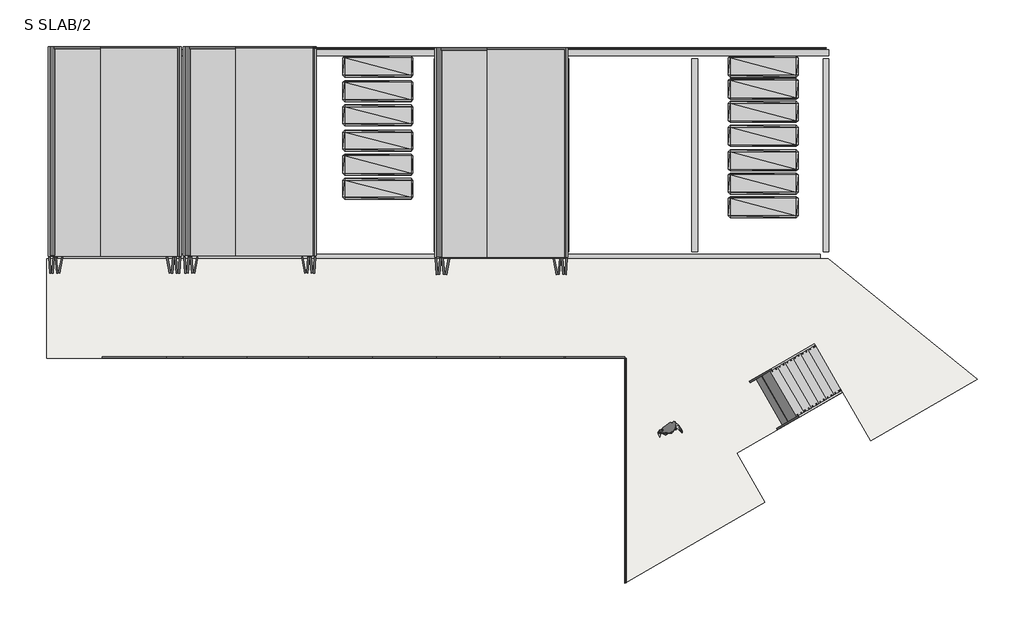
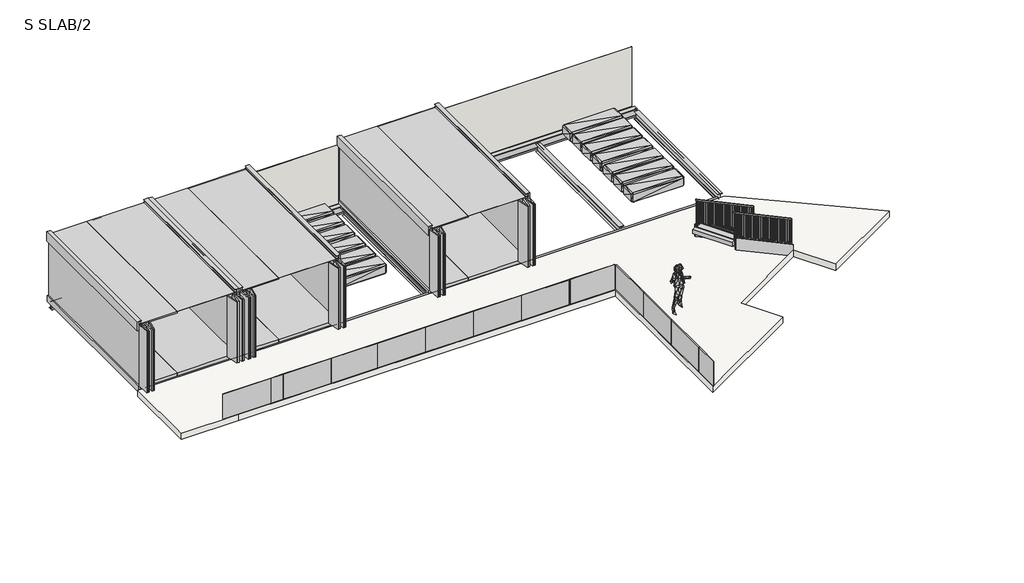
# One storey, incomplete: 14 geographic elements, 14 plates, 7 beams, 3 proxies, 2 members, 2 railings, 2 walls, 1 slab, 1 stair flight.
"""IFC4 building model written with IfcOpenShell, lengths in millimetres."""

from ifc_helpers import new_model, si_unit, frame, origin, place, context, project, spatial, polyline, outline, extrude, transform, mapped, element, save
from components import ub_universal_beams_ub305x165x40_a89eb652, ub_universal_beams_ub305x165x40_de42b84e, ub_universal_beams_ub305x165x40_bd95d4e6, metal_blocks12_metal_blocks12_015d9ee2, geographic_element_6e2c9092, geographic_element_5954a063, system_panel_glazed_a0877fd3, system_panel_glazed_3ddc4d3d, system_panel_glazed_1c1d8f5b, system_panel_glazed_525ed004, system_panel_glazed_75f56514, system_panel_glazed_8bb1380a, wood_steps_w_50mm_tread_10mm_nosing_13mm_riser_072bda0e

model = new_model("IFC4")

# Units and contexts
model_context = context("Model", 3, world=origin())
ifc_project = project(units=[si_unit("LENGTHUNIT", "METRE", prefix="MILLI")], contexts=[model_context])

# Site, building, storey
site = spatial("IfcSite", under=ifc_project)
building = spatial("IfcBuilding", under=site)
storey = spatial("IfcBuildingStorey", under=building, Name="S SLAB/2", Elevation=8800.0)

# Beams
placement = place(None, origin())
ub_universal_beams_ub305x165x40_shape = ub_universal_beams_ub305x165x40_a89eb652(model_context)
element("IfcBeam", 1, ObjectType="UB-Universal Beams : UB305x165x40", at=placement, inside=storey, context=model_context, shape_type="MappedRepresentation", body=[
    mapped(ub_universal_beams_ub305x165x40_shape, transform((3293.8958184, 35051.9809735, 8648.3), x_axis=(1.0, 0.0, 0.0), y_axis=(0.0, 1.0, 0.0), z_axis=(0.0, 0.0, 1.0))),
])
ub_universal_beams_ub305x165x40_2_shape = ub_universal_beams_ub305x165x40_de42b84e(model_context)
element("IfcBeam", 2, ObjectType="UB-Universal Beams : UB305x165x40", at=placement, inside=storey, context=model_context, shape_type="MappedRepresentation", body=[
    mapped(ub_universal_beams_ub305x165x40_2_shape, transform((-2187.5596017, 29190.0288254, 8648.3), x_axis=(1.0, 0.0, 0.0), y_axis=(0.0, 1.0, 0.0), z_axis=(0.0, 0.0, 1.0))),
])
ub_universal_beams_ub305x165x40_3_shape = ub_universal_beams_ub305x165x40_bd95d4e6(model_context)
element("IfcBeam", 3, ObjectType="UB-Universal Beams : UB305x165x40", at=placement, inside=storey, context=model_context, shape_type="MappedRepresentation", body=[
    mapped(ub_universal_beams_ub305x165x40_3_shape, transform((-5929.1066547, 32121.0048994, 8648.3), x_axis=(0.0, -1.0, 0.0), y_axis=(1.0, 0.0, 0.0), z_axis=(0.0, 0.0, 1.0))),
])
element("IfcBeam", 4, ObjectType="UB-Universal Beams : UB305x165x40", at=placement, inside=storey, context=model_context, shape_type="MappedRepresentation", body=[
    mapped(ub_universal_beams_ub305x165x40_3_shape, transform((-2245.9725728, 32121.0048994, 8648.3), x_axis=(0.0, -1.0, 0.0), y_axis=(1.0, 0.0, 0.0), z_axis=(0.0, 0.0, 1.0))),
])
element("IfcBeam", 5, ObjectType="UB-Universal Beams : UB305x165x40", at=placement, inside=storey, context=model_context, shape_type="MappedRepresentation", body=[
    mapped(ub_universal_beams_ub305x165x40_3_shape, transform((1448.4037035, 32121.0048994, 8648.3), x_axis=(0.0, -1.0, 0.0), y_axis=(1.0, 0.0, 0.0), z_axis=(0.0, 0.0, 1.0))),
])
element("IfcBeam", 6, ObjectType="UB-Universal Beams : UB305x165x40", at=placement, inside=storey, context=model_context, shape_type="MappedRepresentation", body=[
    mapped(ub_universal_beams_ub305x165x40_3_shape, transform((5139.3879332, 32121.0048994, 8648.3), x_axis=(0.0, -1.0, 0.0), y_axis=(1.0, 0.0, 0.0), z_axis=(0.0, 0.0, 1.0))),
])
element("IfcBeam", 7, ObjectType="UB-Universal Beams : UB305x165x40", at=placement, inside=storey, context=model_context, shape_type="MappedRepresentation", body=[
    mapped(ub_universal_beams_ub305x165x40_3_shape, transform((8901.9425222, 32121.0048994, 8648.3), x_axis=(0.0, -1.0, 0.0), y_axis=(1.0, 0.0, 0.0), z_axis=(0.0, 0.0, 1.0))),
])

# Proxies
metal_blocks12_metal_blocks12_shape = metal_blocks12_metal_blocks12_015d9ee2(model_context)
element("IfcBuildingElementProxy", 8, Name="metal blocks12 : metal blocks12", ObjectType="metal blocks12 : metal blocks12", at=placement, inside=storey, context=model_context, shape_type="MappedRepresentation", body=[
    mapped(metal_blocks12_metal_blocks12_shape, transform((-9631.6874983, 29227.0848226, 8800.0), x_axis=(0.0, 1.0, 0.0), y_axis=(-1.0, 0.0, 0.0), z_axis=(0.0, 0.0, 1.0))),
])
element("IfcBuildingElementProxy", 9, Name="metal blocks12 : metal blocks12", ObjectType="metal blocks12 : metal blocks12", at=placement, inside=storey, context=model_context, shape_type="MappedRepresentation", body=[
    mapped(metal_blocks12_metal_blocks12_shape, transform((1448.4037035, 29190.0288254, 8800.0), x_axis=(0.0, 1.0, 0.0), y_axis=(-1.0, 0.0, 0.0), z_axis=(0.0, 0.0, 1.0))),
])
element("IfcBuildingElementProxy", 10, Name="metal blocks12 : metal blocks12", ObjectType="metal blocks12 : metal blocks12", at=placement, inside=storey, context=model_context, shape_type="MappedRepresentation", body=[
    mapped(metal_blocks12_metal_blocks12_shape, transform((-5759.3874419, 29229.1388468, 8800.0), x_axis=(0.0, 1.0, 0.0), y_axis=(-1.0, 0.0, 0.0), z_axis=(0.0, 0.0, 1.0))),
])

# Geographic elements
geographic_element_shape = geographic_element_6e2c9092(model_context)
element("IfcGeographicElement", 11, ObjectType="Enscape AssetDefinition - Hedge 006 English Laurel : Enscape AssetDefinition - Hedge 006 English Laurel", at=placement, inside=storey, context=model_context, shape_type="MappedRepresentation", body=[
    mapped(geographic_element_shape, transform((-3938.9722238, 34651.9809735, 8800.0), x_axis=(1.0, 0.0, 0.0), y_axis=(0.0, 1.0, 0.0), z_axis=(0.0, 0.0, 1.0))),
])
element("IfcGeographicElement", 12, ObjectType="Enscape AssetDefinition - Hedge 006 English Laurel : Enscape AssetDefinition - Hedge 006 English Laurel", at=placement, inside=storey, context=model_context, shape_type="MappedRepresentation", body=[
    mapped(geographic_element_shape, transform((-3938.9722238, 33953.060429, 8800.0), x_axis=(1.0, 0.0, 0.0), y_axis=(0.0, 1.0, 0.0), z_axis=(0.0, 0.0, 1.0))),
])
element("IfcGeographicElement", 13, ObjectType="Enscape AssetDefinition - Hedge 006 English Laurel : Enscape AssetDefinition - Hedge 006 English Laurel", at=placement, inside=storey, context=model_context, shape_type="MappedRepresentation", body=[
    mapped(geographic_element_shape, transform((-3938.9722238, 33261.3724853, 8800.0), x_axis=(1.0, 0.0, 0.0), y_axis=(0.0, 1.0, 0.0), z_axis=(0.0, 0.0, 1.0))),
])
element("IfcGeographicElement", 14, ObjectType="Enscape AssetDefinition - Hedge 006 English Laurel : Enscape AssetDefinition - Hedge 006 English Laurel", at=placement, inside=storey, context=model_context, shape_type="MappedRepresentation", body=[
    mapped(geographic_element_shape, transform((7101.9425222, 34651.9809735, 8800.0), x_axis=(1.0, 0.0, 0.0), y_axis=(0.0, 1.0, 0.0), z_axis=(0.0, 0.0, 1.0))),
])
element("IfcGeographicElement", 15, ObjectType="Enscape AssetDefinition - Hedge 006 English Laurel : Enscape AssetDefinition - Hedge 006 English Laurel", at=placement, inside=storey, context=model_context, shape_type="MappedRepresentation", body=[
    mapped(geographic_element_shape, transform((7101.9425222, 33358.0622643, 8800.0), x_axis=(1.0, 0.0, 0.0), y_axis=(0.0, 1.0, 0.0), z_axis=(0.0, 0.0, 1.0))),
])
element("IfcGeographicElement", 16, ObjectType="Enscape AssetDefinition - Hedge 006 English Laurel : Enscape AssetDefinition - Hedge 006 English Laurel", at=placement, inside=storey, context=model_context, shape_type="MappedRepresentation", body=[
    mapped(geographic_element_shape, transform((7101.9425222, 34013.7054998, 8800.0), x_axis=(1.0, 0.0, 0.0), y_axis=(0.0, 1.0, 0.0), z_axis=(0.0, 0.0, 1.0))),
])
element("IfcGeographicElement", 17, ObjectType="Enscape AssetDefinition - Hedge 006 English Laurel : Enscape AssetDefinition - Hedge 006 English Laurel", at=placement, inside=storey, context=model_context, shape_type="MappedRepresentation", body=[
    mapped(geographic_element_shape, transform((7101.9425222, 32669.7346193, 8800.0), x_axis=(1.0, 0.0, 0.0), y_axis=(0.0, 1.0, 0.0), z_axis=(0.0, 0.0, 1.0))),
])
element("IfcGeographicElement", 18, ObjectType="Enscape AssetDefinition - Hedge 006 English Laurel : Enscape AssetDefinition - Hedge 006 English Laurel", at=placement, inside=storey, context=model_context, shape_type="MappedRepresentation", body=[
    mapped(geographic_element_shape, transform((-3938.9722238, 32530.6576234, 8800.0), x_axis=(1.0, 0.0, 0.0), y_axis=(0.0, 1.0, 0.0), z_axis=(0.0, 0.0, 1.0))),
])
element("IfcGeographicElement", 19, ObjectType="Enscape AssetDefinition - Hedge 006 English Laurel : Enscape AssetDefinition - Hedge 006 English Laurel", at=placement, inside=storey, context=model_context, shape_type="MappedRepresentation", body=[
    mapped(geographic_element_shape, transform((-3938.9722238, 31848.9337636, 8800.0), x_axis=(1.0, 0.0, 0.0), y_axis=(0.0, 1.0, 0.0), z_axis=(0.0, 0.0, 1.0))),
])
element("IfcGeographicElement", 20, ObjectType="Enscape AssetDefinition - Hedge 006 English Laurel : Enscape AssetDefinition - Hedge 006 English Laurel", at=placement, inside=storey, context=model_context, shape_type="MappedRepresentation", body=[
    mapped(geographic_element_shape, transform((-3938.9722238, 31154.7711822, 8800.0), x_axis=(1.0, 0.0, 0.0), y_axis=(0.0, 1.0, 0.0), z_axis=(0.0, 0.0, 1.0))),
])
element("IfcGeographicElement", 21, ObjectType="Enscape AssetDefinition - Hedge 006 English Laurel : Enscape AssetDefinition - Hedge 006 English Laurel", at=placement, inside=storey, context=model_context, shape_type="MappedRepresentation", body=[
    mapped(geographic_element_shape, transform((7101.9425222, 31969.7346193, 8800.0), x_axis=(1.0, 0.0, 0.0), y_axis=(0.0, 1.0, 0.0), z_axis=(0.0, 0.0, 1.0))),
])
element("IfcGeographicElement", 22, ObjectType="Enscape AssetDefinition - Hedge 006 English Laurel : Enscape AssetDefinition - Hedge 006 English Laurel", at=placement, inside=storey, context=model_context, shape_type="MappedRepresentation", body=[
    mapped(geographic_element_shape, transform((7101.9425222, 31299.6738672, 8800.0), x_axis=(1.0, 0.0, 0.0), y_axis=(0.0, 1.0, 0.0), z_axis=(0.0, 0.0, 1.0))),
])
element("IfcGeographicElement", 23, ObjectType="Enscape AssetDefinition - Hedge 006 English Laurel : Enscape AssetDefinition - Hedge 006 English Laurel", at=placement, inside=storey, context=model_context, shape_type="MappedRepresentation", body=[
    mapped(geographic_element_shape, transform((7101.9425222, 30627.3075812, 8800.0), x_axis=(1.0, 0.0, 0.0), y_axis=(0.0, 1.0, 0.0), z_axis=(0.0, 0.0, 1.0))),
])
geographic_element_2_shape = geographic_element_5954a063(model_context)
element("IfcGeographicElement", 24, ObjectType="Enscape AssetDefinition - Aimee 002 Standing : Enscape AssetDefinition - Aimee 002 Standing", at=placement, inside=storey, context=model_context, shape_type="MappedRepresentation", body=[
    mapped(geographic_element_2_shape, transform((4332.0366131, 24244.7647853, 8800.0), x_axis=(1.0, 0.0, 0.0), y_axis=(0.0, 1.0, 0.0), z_axis=(0.0, 0.0, 1.0))),
])

# Members
element("IfcMember", 25, ObjectType="Stringer-50mm_Width", at=placement, inside=storey, context=model_context, shape_type="SweptSolid", body=[
    extrude(outline(polyline([(-130.9293633, -193.9694271), (0.0, 0.0), (4524.348192, 0.0), (4254.348192, -400.0), (174.3011152, -400.0), (-130.9293633, -193.9694271)])), frame((9365.4091064, 25329.9735646, 9034.0227271), z_axis=(-0.4999999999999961, 0.8660254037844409, 0.0), x_axis=(-0.7178040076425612, -0.4144243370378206, 0.5594728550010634)), (0.0, 0.0, 1.0), 50.0),
])
element("IfcMember", 26, ObjectType="Stringer-50mm_Width", at=placement, inside=storey, context=model_context, shape_type="SweptSolid", body=[
    extrude(outline(polyline([(-130.9293633, -193.9694271), (0.0, 0.0), (4524.348192, 0.0), (4254.348192, -400.0), (174.3011152, -400.0), (-130.9293633, -193.9694271)])), frame((8590.4091064, 26672.3129404, 9034.0227271), z_axis=(-0.4999999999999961, 0.866025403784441, 0.0), x_axis=(-0.7178040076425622, -0.4144243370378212, 0.5594728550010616)), (0.0, 0.0, 1.0), 50.0),
])

# Plates
system_panel_glazed_shape = system_panel_glazed_a0877fd3(model_context)
element("IfcPlate", 27, ObjectType="System Panel : Glazed", at=placement, inside=storey, context=model_context, shape_type="MappedRepresentation", body=[
    mapped(system_panel_glazed_shape, transform((-10915.6675531, 26292.1681881, 8800.0), x_axis=(1.0, 0.0, 0.0), y_axis=(0.0, 1.0, 0.0), z_axis=(0.0, 0.0, 1.0))),
])
element("IfcPlate", 28, ObjectType="System Panel : Glazed", at=placement, inside=storey, context=model_context, shape_type="MappedRepresentation", body=[
    mapped(system_panel_glazed_shape, transform((-8616.6874982, 26292.1681881, 8800.0), x_axis=(1.0, 0.0, 0.0), y_axis=(0.0, 1.0, 0.0), z_axis=(0.0, 0.0, 1.0))),
])
element("IfcPlate", 29, ObjectType="System Panel : Glazed", at=placement, inside=storey, context=model_context, shape_type="MappedRepresentation", body=[
    mapped(system_panel_glazed_shape, transform((-5016.6874982, 26292.1681881, 8800.0), x_axis=(1.0, 0.0, 0.0), y_axis=(0.0, 1.0, 0.0), z_axis=(0.0, 0.0, 1.0))),
])
element("IfcPlate", 30, ObjectType="System Panel : Glazed", at=placement, inside=storey, context=model_context, shape_type="MappedRepresentation", body=[
    mapped(system_panel_glazed_shape, transform((-3186.6874982, 26292.1681881, 8800.0), x_axis=(1.0, 0.0, 0.0), y_axis=(0.0, 1.0, 0.0), z_axis=(0.0, 0.0, 1.0))),
])
element("IfcPlate", 31, ObjectType="System Panel : Glazed", at=placement, inside=storey, context=model_context, shape_type="MappedRepresentation", body=[
    mapped(system_panel_glazed_shape, transform((-1356.6874982, 26292.1681881, 8800.0), x_axis=(1.0, 0.0, 0.0), y_axis=(0.0, 1.0, 0.0), z_axis=(0.0, 0.0, 1.0))),
])
element("IfcPlate", 32, ObjectType="System Panel : Glazed", at=placement, inside=storey, context=model_context, shape_type="MappedRepresentation", body=[
    mapped(system_panel_glazed_shape, transform((473.312502, 26292.1681881, 8800.0), x_axis=(1.0, 0.0, 0.0), y_axis=(0.0, 1.0, 0.0), z_axis=(0.0, 0.0, 1.0))),
])
element("IfcPlate", 33, ObjectType="System Panel : Glazed", at=placement, inside=storey, context=model_context, shape_type="MappedRepresentation", body=[
    mapped(system_panel_glazed_shape, transform((3132.0366131, 25377.1681879, 8800.0), x_axis=(0.0, -1.0, 0.0), y_axis=(1.0, 0.0, 0.0), z_axis=(0.0, 0.0, 1.0))),
])
element("IfcPlate", 34, ObjectType="System Panel : Glazed", at=placement, inside=storey, context=model_context, shape_type="MappedRepresentation", body=[
    mapped(system_panel_glazed_shape, transform((3132.0366131, 23547.1681878, 8800.0), x_axis=(0.0, -1.0, 0.0), y_axis=(1.0, 0.0, 0.0), z_axis=(0.0, 0.0, 1.0))),
])
element("IfcPlate", 35, ObjectType="System Panel : Glazed", at=placement, inside=storey, context=model_context, shape_type="MappedRepresentation", body=[
    mapped(system_panel_glazed_shape, transform((3132.0366131, 21717.1681878, 8800.0), x_axis=(0.0, -1.0, 0.0), y_axis=(1.0, 0.0, 0.0), z_axis=(0.0, 0.0, 1.0))),
])
system_panel_glazed_2_shape = system_panel_glazed_3ddc4d3d(model_context)
element("IfcPlate", 36, ObjectType="System Panel : Glazed", at=placement, inside=storey, context=model_context, shape_type="MappedRepresentation", body=[
    mapped(system_panel_glazed_2_shape, transform((-6816.6874982, 26292.1681881, 8800.0), x_axis=(1.0, 0.0, 0.0), y_axis=(0.0, 1.0, 0.0), z_axis=(0.0, 0.0, 1.0))),
])
system_panel_glazed_3_shape = system_panel_glazed_1c1d8f5b(model_context)
element("IfcPlate", 37, ObjectType="System Panel : Glazed", at=placement, inside=storey, context=model_context, shape_type="MappedRepresentation", body=[
    mapped(system_panel_glazed_3_shape, transform((1408.3125018, 26292.1681881, 8800.0), x_axis=(1.0, 0.0, 0.0), y_axis=(0.0, 1.0, 0.0), z_axis=(0.0, 0.0, 1.0))),
])
system_panel_glazed_4_shape = system_panel_glazed_525ed004(model_context)
element("IfcPlate", 38, ObjectType="System Panel : Glazed", at=placement, inside=storey, context=model_context, shape_type="MappedRepresentation", body=[
    mapped(system_panel_glazed_4_shape, transform((2280.1745574, 26292.1681881, 8800.0), x_axis=(1.0, 0.0, 0.0), y_axis=(0.0, 1.0, 0.0), z_axis=(0.0, 0.0, 1.0))),
])
system_panel_glazed_5_shape = system_panel_glazed_75f56514(model_context)
element("IfcPlate", 39, ObjectType="System Panel : Glazed", at=placement, inside=storey, context=model_context, shape_type="MappedRepresentation", body=[
    mapped(system_panel_glazed_5_shape, transform((3132.0366131, 20331.6230881, 8800.0), x_axis=(0.0, -1.0, 0.0), y_axis=(1.0, 0.0, 0.0), z_axis=(0.0, 0.0, 1.0))),
])
system_panel_glazed_6_shape = system_panel_glazed_8bb1380a(model_context)
element("IfcPlate", 40, ObjectType="System Panel : Glazed", at=placement, inside=storey, context=model_context, shape_type="MappedRepresentation", body=[
    mapped(system_panel_glazed_6_shape, transform((-9766.1775256, 26292.1681881, 8800.0), x_axis=(1.0, 0.0, 0.0), y_axis=(0.0, 1.0, 0.0), z_axis=(0.0, 0.0, 1.0))),
])

# Railings
element("IfcRailing", 41, ObjectType="1100mm", at=placement, inside=storey, context=model_context, shape_type="SweptSolid", body=[
    extrude(outline(polyline([(-33.75, -50.0), (0.0, 0.0), (4524.348192, 0.0), (4490.598192, -50.0), (-33.75, -50.0)])), frame((8615.6091064, 26628.6652601, 10068.75), z_axis=(-0.499999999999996, 0.8660254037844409, 0.0), x_axis=(-0.7178040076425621, -0.414424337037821, 0.5594728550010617)), (0.0, 0.0, 1.0), 50.0),
    extrude(outline(polyline([(1266.2378574, -25.0), (108.4375, -25.0), (91.5625, 0.0), (1266.2378574, 0.0), (1266.2378574, -25.0)])), frame((5405.0651124, 24789.4905776, 12597.4878574), z_axis=(-0.49999999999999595, 0.8660254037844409, 0.0), x_axis=(0.0, 0.0, -1.0)), (0.0, 0.0, 1.0), 25.0),
    extrude(outline(polyline([(1181.8628574, -25.0), (108.4375, -25.0), (91.5625, 0.0), (1181.8628574, 0.0), (1181.8628574, -25.0)])), frame((5513.3182878, 24851.9905776, 12513.1128574), z_axis=(-0.49999999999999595, 0.8660254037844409, 0.0), x_axis=(0.0, 0.0, -1.0)), (0.0, 0.0, 1.0), 25.0),
    extrude(outline(polyline([(1266.2378574, -25.0), (108.4375, -25.0), (91.5625, 0.0), (1266.2378574, 0.0), (1266.2378574, -25.0)])), frame((5621.5714633, 24914.4905776, 12428.7378574), z_axis=(-0.49999999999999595, 0.8660254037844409, 0.0), x_axis=(0.0, 0.0, -1.0)), (0.0, 0.0, 1.0), 25.0),
    extrude(outline(polyline([(1181.8628574, -25.0), (108.4375, -25.0), (91.5625, 0.0), (1181.8628574, 0.0), (1181.8628574, -25.0)])), frame((5729.8246388, 24976.9905776, 12344.3628574), z_axis=(-0.49999999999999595, 0.8660254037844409, 0.0), x_axis=(0.0, 0.0, -1.0)), (0.0, 0.0, 1.0), 25.0),
    extrude(outline(polyline([(1266.2378574, -24.9999999), (108.4375, -24.9999999), (91.5625, 0.0), (1266.2378574, 0.0), (1266.2378574, -24.9999999)])), frame((5838.0778143, 25039.4905776, 12259.9878574), z_axis=(-0.49999999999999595, 0.8660254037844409, 0.0), x_axis=(0.0, 0.0, -1.0)), (0.0, 0.0, 1.0), 25.0),
    extrude(outline(polyline([(1181.8628574, -25.0), (108.4375, -25.0), (91.5625, 0.0), (1181.8628574, 0.0), (1181.8628574, -25.0)])), frame((5946.3309897, 25101.9905776, 12175.6128574), z_axis=(-0.49999999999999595, 0.8660254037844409, 0.0), x_axis=(0.0, 0.0, -1.0)), (0.0, 0.0, 1.0), 25.0),
    extrude(outline(polyline([(1266.2378574, -25.0), (108.4375, -25.0), (91.5625, 0.0), (1266.2378574, 0.0), (1266.2378574, -25.0)])), frame((6054.5841652, 25164.4905776, 12091.2378574), z_axis=(-0.49999999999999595, 0.8660254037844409, 0.0), x_axis=(0.0, 0.0, -1.0)), (0.0, 0.0, 1.0), 25.0),
    extrude(outline(polyline([(1181.8628574, -25.0), (108.4375, -25.0), (91.5625, 0.0), (1181.8628574, 0.0), (1181.8628574, -25.0)])), frame((6162.8373407, 25226.9905776, 12006.8628574), z_axis=(-0.49999999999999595, 0.8660254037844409, 0.0), x_axis=(0.0, 0.0, -1.0)), (0.0, 0.0, 1.0), 25.0),
    extrude(outline(polyline([(1266.2378574, -25.0), (108.4375, -25.0), (91.5625, 0.0), (1266.2378574, 0.0), (1266.2378574, -25.0)])), frame((6271.0905161, 25289.4905776, 11922.4878574), z_axis=(-0.49999999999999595, 0.8660254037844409, 0.0), x_axis=(0.0, 0.0, -1.0)), (0.0, 0.0, 1.0), 25.0),
    extrude(outline(polyline([(1181.8628574, -25.0), (108.4375, -25.0), (91.5625, 0.0), (1181.8628574, 0.0), (1181.8628574, -25.0)])), frame((6379.3436916, 25351.9905776, 11838.1128574), z_axis=(-0.49999999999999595, 0.8660254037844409, 0.0), x_axis=(0.0, 0.0, -1.0)), (0.0, 0.0, 1.0), 25.0),
    extrude(outline(polyline([(1266.2378574, -25.0), (108.4375, -25.0), (91.5625, 0.0), (1266.2378574, 0.0), (1266.2378574, -25.0)])), frame((6487.5968671, 25414.4905776, 11753.7378574), z_axis=(-0.49999999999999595, 0.8660254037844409, 0.0), x_axis=(0.0, 0.0, -1.0)), (0.0, 0.0, 1.0), 25.0),
    extrude(outline(polyline([(1181.8628574, -25.0), (108.4375, -25.0), (91.5625, 0.0), (1181.8628574, 0.0), (1181.8628574, -25.0)])), frame((6595.8500426, 25476.9905776, 11669.3628574), z_axis=(-0.49999999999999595, 0.8660254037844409, 0.0), x_axis=(0.0, 0.0, -1.0)), (0.0, 0.0, 1.0), 25.0),
    extrude(outline(polyline([(1266.2378574, -25.0), (108.4375, -25.0), (91.5625, 0.0), (1266.2378574, 0.0), (1266.2378574, -25.0)])), frame((6704.103218, 25539.4905776, 11584.9878574), z_axis=(-0.49999999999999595, 0.8660254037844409, 0.0), x_axis=(0.0, 0.0, -1.0)), (0.0, 0.0, 1.0), 25.0),
    extrude(outline(polyline([(1181.8628574, -25.0), (108.4375, -25.0), (91.5625, 0.0), (1181.8628574, 0.0), (1181.8628574, -25.0)])), frame((6812.3563935, 25601.9905776, 11500.6128574), z_axis=(-0.49999999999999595, 0.8660254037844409, 0.0), x_axis=(0.0, 0.0, -1.0)), (0.0, 0.0, 1.0), 25.0),
    extrude(outline(polyline([(1266.2378574, -25.0), (108.4375, -25.0), (91.5625, 0.0), (1266.2378574, 0.0), (1266.2378574, -25.0)])), frame((6920.609569, 25664.4905776, 11416.2378574), z_axis=(-0.49999999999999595, 0.8660254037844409, 0.0), x_axis=(0.0, 0.0, -1.0)), (0.0, 0.0, 1.0), 25.0),
    extrude(outline(polyline([(1181.8628574, -25.0), (108.4375, -25.0), (91.5625, 0.0), (1181.8628574, 0.0), (1181.8628574, -25.0)])), frame((7028.8627445, 25726.9905776, 11331.8628574), z_axis=(-0.49999999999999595, 0.8660254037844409, 0.0), x_axis=(0.0, 0.0, -1.0)), (0.0, 0.0, 1.0), 25.0),
    extrude(outline(polyline([(1266.2378574, -25.0), (108.4375, -25.0), (91.5625, 0.0), (1266.2378574, 0.0), (1266.2378574, -25.0)])), frame((7137.1159199, 25789.4905776, 11247.4878574), z_axis=(-0.49999999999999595, 0.8660254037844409, 0.0), x_axis=(0.0, 0.0, -1.0)), (0.0, 0.0, 1.0), 25.0),
    extrude(outline(polyline([(1181.8628574, -25.0), (108.4375, -25.0), (91.5625, 0.0), (1181.8628574, 0.0), (1181.8628574, -25.0)])), frame((7245.3690954, 25851.9905776, 11163.1128574), z_axis=(-0.49999999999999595, 0.8660254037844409, 0.0), x_axis=(0.0, 0.0, -1.0)), (0.0, 0.0, 1.0), 25.0),
    extrude(outline(polyline([(1266.2378574, -25.0), (108.4375, -25.0), (91.5625, 0.0), (1266.2378574, 0.0), (1266.2378574, -25.0)])), frame((7353.6222709, 25914.4905776, 11078.7378574), z_axis=(-0.49999999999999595, 0.8660254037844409, 0.0), x_axis=(0.0, 0.0, -1.0)), (0.0, 0.0, 1.0), 25.0),
    extrude(outline(polyline([(1181.8628574, -24.9999999), (108.4375, -24.9999999), (91.5625, 0.0), (1181.8628574, 0.0), (1181.8628574, -24.9999999)])), frame((7461.8754464, 25976.9905776, 10994.3628574), z_axis=(-0.49999999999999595, 0.8660254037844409, 0.0), x_axis=(0.0, 0.0, -1.0)), (0.0, 0.0, 1.0), 25.0),
    extrude(outline(polyline([(1266.2378574, -25.0), (108.4375, -25.0), (91.5625, 0.0), (1266.2378574, 0.0), (1266.2378574, -25.0)])), frame((7570.1286218, 26039.4905776, 10909.9878574), z_axis=(-0.49999999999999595, 0.8660254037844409, 0.0), x_axis=(0.0, 0.0, -1.0)), (0.0, 0.0, 1.0), 25.0),
    extrude(outline(polyline([(1181.8628574, -25.0), (108.4375, -25.0), (91.5625, 0.0), (1181.8628574, 0.0), (1181.8628574, -25.0)])), frame((7678.3817973, 26101.9905776, 10825.6128574), z_axis=(-0.49999999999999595, 0.8660254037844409, 0.0), x_axis=(0.0, 0.0, -1.0)), (0.0, 0.0, 1.0), 25.0),
    extrude(outline(polyline([(1266.2378574, -25.0), (108.4375, -25.0), (91.5625, 0.0), (1266.2378574, 0.0), (1266.2378574, -25.0)])), frame((7786.6349728, 26164.4905776, 10741.2378574), z_axis=(-0.49999999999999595, 0.8660254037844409, 0.0), x_axis=(0.0, 0.0, -1.0)), (0.0, 0.0, 1.0), 25.0),
    extrude(outline(polyline([(1181.8628574, -25.0), (108.4375, -25.0), (91.5625, 0.0), (1181.8628574, 0.0), (1181.8628574, -25.0)])), frame((7894.8881482, 26226.9905776, 10656.8628574), z_axis=(-0.49999999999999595, 0.8660254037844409, 0.0), x_axis=(0.0, 0.0, -1.0)), (0.0, 0.0, 1.0), 25.0),
    extrude(outline(polyline([(1266.2378574, -25.0), (108.4375, -25.0), (91.5625, 0.0), (1266.2378574, 0.0), (1266.2378574, -25.0)])), frame((8003.1413237, 26289.4905776, 10572.4878574), z_axis=(-0.49999999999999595, 0.8660254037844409, 0.0), x_axis=(0.0, 0.0, -1.0)), (0.0, 0.0, 1.0), 25.0),
    extrude(outline(polyline([(1181.8628574, -25.0), (108.4375, -25.0), (91.5625, 0.0), (1181.8628574, 0.0), (1181.8628574, -25.0)])), frame((8111.3944992, 26351.9905776, 10488.1128574), z_axis=(-0.49999999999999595, 0.8660254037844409, 0.0), x_axis=(0.0, 0.0, -1.0)), (0.0, 0.0, 1.0), 25.0),
    extrude(outline(polyline([(1266.2378574, -25.0), (108.4375, -25.0), (91.5625, 0.0), (1266.2378574, 0.0), (1266.2378574, -25.0)])), frame((8219.6476747, 26414.4905776, 10403.7378574), z_axis=(-0.49999999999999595, 0.8660254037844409, 0.0), x_axis=(0.0, 0.0, -1.0)), (0.0, 0.0, 1.0), 25.0),
    extrude(outline(polyline([(1181.8628574, -25.0), (108.4375, -25.0), (91.5625, 0.0), (1181.8628574, 0.0), (1181.8628574, -25.0)])), frame((8327.9008501, 26476.9905776, 10319.3628574), z_axis=(-0.49999999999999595, 0.8660254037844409, 0.0), x_axis=(0.0, 0.0, -1.0)), (0.0, 0.0, 1.0), 25.0),
    extrude(outline(polyline([(1266.2378574, -25.0), (108.4375, -25.0), (91.5625, 0.0), (1266.2378574, 0.0), (1266.2378574, -25.0)])), frame((8436.1540256, 26539.4905776, 10234.9878574), z_axis=(-0.49999999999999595, 0.8660254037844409, 0.0), x_axis=(0.0, 0.0, -1.0)), (0.0, 0.0, 1.0), 25.0),
    extrude(outline(polyline([(1181.8628574, -25.0), (108.4375, -25.0), (91.5625, 0.0), (1181.8628574, 0.0), (1181.8628574, -25.0)])), frame((8544.4072011, 26601.9905776, 10150.6128574), z_axis=(-0.49999999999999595, 0.8660254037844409, 0.0), x_axis=(0.0, 0.0, -1.0)), (0.0, 0.0, 1.0), 25.0),
    extrude(outline(polyline([(1299.9878574, -25.0), (108.4375, -25.0), (91.5625, 0.0), (1299.9878574, 0.0), (1299.9878574, -25.0)])), frame((5361.7638422, 24764.4905776, 12631.2378574), z_axis=(-0.49999999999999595, 0.8660254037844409, 0.0), x_axis=(0.0, 0.0, -1.0)), (0.0, 0.0, 1.0), 25.0),
    extrude(outline(polyline([(1148.1128574, -25.0), (108.4375, -25.0), (91.5625, 0.0), (1148.1128574, 0.0), (1148.1128574, -25.0)])), frame((8587.7084713, 26626.9905776, 10116.8628574), z_axis=(-0.49999999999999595, 0.8660254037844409, 0.0), x_axis=(0.0, 0.0, -1.0)), (0.0, 0.0, 1.0), 25.0),
])
element("IfcRailing", 42, ObjectType="1100mm", at=placement, inside=storey, context=model_context, shape_type="SweptSolid", body=[
    extrude(outline(polyline([(-33.75, -50.0), (0.0, 0.0), (4524.348192, 0.0), (4490.598192, -50.0), (-33.75, -50.0)])), frame((9340.2091064, 25373.6212449, 10068.75), z_axis=(-0.4999999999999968, 0.8660254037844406, 0.0), x_axis=(-0.717804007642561, -0.4144243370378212, 0.5594728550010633)), (0.0, 0.0, 1.0), 50.0),
    extrude(outline(polyline([(108.4375, 0.0), (91.5625, 25.0), (1266.2378574, 25.0), (1266.2378574, 0.0), (108.4375, 0.0)])), frame((6151.3157475, 23546.9465625, 12597.4878574), z_axis=(-0.4999999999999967, 0.8660254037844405, 0.0), x_axis=(0.0, 0.0, -1.0)), (0.0, 0.0, 1.0), 25.0),
    extrude(outline(polyline([(108.4375, 0.0), (91.5625, 25.0), (1181.8628574, 25.0), (1181.8628574, 0.0), (108.4375, 0.0)])), frame((6259.5689229, 23609.4465625, 12513.1128574), z_axis=(-0.4999999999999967, 0.8660254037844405, 0.0), x_axis=(0.0, 0.0, -1.0)), (0.0, 0.0, 1.0), 25.0),
    extrude(outline(polyline([(108.4375, 0.0), (91.5625, 25.0), (1266.2378574, 25.0), (1266.2378574, 0.0), (108.4375, 0.0)])), frame((6367.8220984, 23671.9465625, 12428.7378574), z_axis=(-0.4999999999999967, 0.8660254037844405, 0.0), x_axis=(0.0, 0.0, -1.0)), (0.0, 0.0, 1.0), 25.0),
    extrude(outline(polyline([(108.4375, 0.0), (91.5625, 25.0), (1181.8628574, 25.0), (1181.8628574, 0.0), (108.4375, 0.0)])), frame((6476.0752739, 23734.4465625, 12344.3628574), z_axis=(-0.4999999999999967, 0.8660254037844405, 0.0), x_axis=(0.0, 0.0, -1.0)), (0.0, 0.0, 1.0), 25.0),
    extrude(outline(polyline([(108.4375, 0.0), (91.5625, 24.9999999), (1266.2378574, 24.9999999), (1266.2378574, 0.0), (108.4375, 0.0)])), frame((6584.3284493, 23796.9465625, 12259.9878574), z_axis=(-0.4999999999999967, 0.8660254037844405, 0.0), x_axis=(0.0, 0.0, -1.0)), (0.0, 0.0, 1.0), 25.0),
    extrude(outline(polyline([(108.4375, 0.0), (91.5625, 25.0), (1181.8628574, 25.0), (1181.8628574, 0.0), (108.4375, 0.0)])), frame((6692.5816248, 23859.4465625, 12175.6128574), z_axis=(-0.4999999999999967, 0.8660254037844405, 0.0), x_axis=(0.0, 0.0, -1.0)), (0.0, 0.0, 1.0), 25.0),
    extrude(outline(polyline([(108.4375, 0.0), (91.5625, 25.0), (1266.2378574, 25.0), (1266.2378574, 0.0), (108.4375, 0.0)])), frame((6800.8348003, 23921.9465625, 12091.2378574), z_axis=(-0.4999999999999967, 0.8660254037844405, 0.0), x_axis=(0.0, 0.0, -1.0)), (0.0, 0.0, 1.0), 25.0),
    extrude(outline(polyline([(108.4375, 0.0), (91.5625, 25.0), (1181.8628574, 25.0), (1181.8628574, 0.0), (108.4375, 0.0)])), frame((6909.0879758, 23984.4465625, 12006.8628574), z_axis=(-0.4999999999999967, 0.8660254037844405, 0.0), x_axis=(0.0, 0.0, -1.0)), (0.0, 0.0, 1.0), 25.0),
    extrude(outline(polyline([(108.4375, 0.0), (91.5625, 25.0), (1266.2378574, 25.0), (1266.2378574, 0.0), (108.4375, 0.0)])), frame((7017.3411512, 24046.9465625, 11922.4878574), z_axis=(-0.4999999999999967, 0.8660254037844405, 0.0), x_axis=(0.0, 0.0, -1.0)), (0.0, 0.0, 1.0), 25.0),
    extrude(outline(polyline([(108.4375, 0.0), (91.5625, 25.0), (1181.8628574, 25.0), (1181.8628574, 0.0), (108.4375, 0.0)])), frame((7125.5943267, 24109.4465625, 11838.1128574), z_axis=(-0.4999999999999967, 0.8660254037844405, 0.0), x_axis=(0.0, 0.0, -1.0)), (0.0, 0.0, 1.0), 25.0),
    extrude(outline(polyline([(108.4375, 0.0), (91.5625, 25.0), (1266.2378574, 25.0), (1266.2378574, 0.0), (108.4375, 0.0)])), frame((7233.8475022, 24171.9465625, 11753.7378574), z_axis=(-0.4999999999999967, 0.8660254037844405, 0.0), x_axis=(0.0, 0.0, -1.0)), (0.0, 0.0, 1.0), 25.0),
    extrude(outline(polyline([(108.4375, 0.0), (91.5625, 25.0), (1181.8628574, 25.0), (1181.8628574, 0.0), (108.4375, 0.0)])), frame((7342.1006777, 24234.4465625, 11669.3628574), z_axis=(-0.4999999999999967, 0.8660254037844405, 0.0), x_axis=(0.0, 0.0, -1.0)), (0.0, 0.0, 1.0), 25.0),
    extrude(outline(polyline([(108.4375, 0.0), (91.5625, 25.0), (1266.2378574, 25.0), (1266.2378574, 0.0), (108.4375, 0.0)])), frame((7450.3538531, 24296.9465625, 11584.9878574), z_axis=(-0.4999999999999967, 0.8660254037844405, 0.0), x_axis=(0.0, 0.0, -1.0)), (0.0, 0.0, 1.0), 25.0),
    extrude(outline(polyline([(108.4375, 0.0), (91.5625, 25.0), (1181.8628574, 25.0), (1181.8628574, 0.0), (108.4375, 0.0)])), frame((7558.6070286, 24359.4465625, 11500.6128574), z_axis=(-0.4999999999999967, 0.8660254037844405, 0.0), x_axis=(0.0, 0.0, -1.0)), (0.0, 0.0, 1.0), 25.0),
    extrude(outline(polyline([(108.4375, 0.0), (91.5625, 25.0), (1266.2378574, 25.0), (1266.2378574, 0.0), (108.4375, 0.0)])), frame((7666.8602041, 24421.9465625, 11416.2378574), z_axis=(-0.4999999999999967, 0.8660254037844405, 0.0), x_axis=(0.0, 0.0, -1.0)), (0.0, 0.0, 1.0), 25.0),
    extrude(outline(polyline([(108.4375, 0.0), (91.5625, 25.0), (1181.8628574, 25.0), (1181.8628574, 0.0), (108.4375, 0.0)])), frame((7775.1133796, 24484.4465625, 11331.8628574), z_axis=(-0.4999999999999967, 0.8660254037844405, 0.0), x_axis=(0.0, 0.0, -1.0)), (0.0, 0.0, 1.0), 25.0),
    extrude(outline(polyline([(108.4375, 0.0), (91.5625, 25.0), (1266.2378574, 25.0), (1266.2378574, 0.0), (108.4375, 0.0)])), frame((7883.366555, 24546.9465625, 11247.4878574), z_axis=(-0.4999999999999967, 0.8660254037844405, 0.0), x_axis=(0.0, 0.0, -1.0)), (0.0, 0.0, 1.0), 25.0),
    extrude(outline(polyline([(108.4375, 0.0), (91.5625, 25.0), (1181.8628574, 25.0), (1181.8628574, 0.0), (108.4375, 0.0)])), frame((7991.6197305, 24609.4465625, 11163.1128574), z_axis=(-0.4999999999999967, 0.8660254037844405, 0.0), x_axis=(0.0, 0.0, -1.0)), (0.0, 0.0, 1.0), 25.0),
    extrude(outline(polyline([(108.4375, 0.0), (91.5625, 25.0), (1266.2378574, 25.0), (1266.2378574, 0.0), (108.4375, 0.0)])), frame((8099.872906, 24671.9465625, 11078.7378574), z_axis=(-0.4999999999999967, 0.8660254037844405, 0.0), x_axis=(0.0, 0.0, -1.0)), (0.0, 0.0, 1.0), 25.0),
    extrude(outline(polyline([(108.4375, 0.0), (91.5625, 24.9999999), (1181.8628574, 24.9999999), (1181.8628574, 0.0), (108.4375, 0.0)])), frame((8208.1260814, 24734.4465625, 10994.3628574), z_axis=(-0.4999999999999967, 0.8660254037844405, 0.0), x_axis=(0.0, 0.0, -1.0)), (0.0, 0.0, 1.0), 25.0),
    extrude(outline(polyline([(108.4375, 0.0), (91.5625, 25.0), (1266.2378574, 25.0), (1266.2378574, 0.0), (108.4375, 0.0)])), frame((8316.3792569, 24796.9465625, 10909.9878574), z_axis=(-0.4999999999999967, 0.8660254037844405, 0.0), x_axis=(0.0, 0.0, -1.0)), (0.0, 0.0, 1.0), 25.0),
    extrude(outline(polyline([(108.4375, 0.0), (91.5625, 25.0), (1181.8628574, 25.0), (1181.8628574, 0.0), (108.4375, 0.0)])), frame((8424.6324324, 24859.4465625, 10825.6128574), z_axis=(-0.4999999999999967, 0.8660254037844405, 0.0), x_axis=(0.0, 0.0, -1.0)), (0.0, 0.0, 1.0), 25.0),
    extrude(outline(polyline([(108.4375, 0.0), (91.5625, 25.0), (1266.2378574, 25.0), (1266.2378574, 0.0), (108.4375, 0.0)])), frame((8532.8856079, 24921.9465625, 10741.2378574), z_axis=(-0.4999999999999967, 0.8660254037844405, 0.0), x_axis=(0.0, 0.0, -1.0)), (0.0, 0.0, 1.0), 25.0),
    extrude(outline(polyline([(108.4375, 0.0), (91.5625, 25.0), (1181.8628574, 25.0), (1181.8628574, 0.0), (108.4375, 0.0)])), frame((8641.1387833, 24984.4465625, 10656.8628574), z_axis=(-0.4999999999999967, 0.8660254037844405, 0.0), x_axis=(0.0, 0.0, -1.0)), (0.0, 0.0, 1.0), 25.0),
    extrude(outline(polyline([(108.4375, 0.0), (91.5625, 25.0), (1266.2378574, 25.0), (1266.2378574, 0.0), (108.4375, 0.0)])), frame((8749.3919588, 25046.9465625, 10572.4878574), z_axis=(-0.4999999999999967, 0.8660254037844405, 0.0), x_axis=(0.0, 0.0, -1.0)), (0.0, 0.0, 1.0), 25.0),
    extrude(outline(polyline([(108.4375, 0.0), (91.5625, 25.0), (1181.8628574, 25.0), (1181.8628574, 0.0), (108.4375, 0.0)])), frame((8857.6451343, 25109.4465625, 10488.1128574), z_axis=(-0.4999999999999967, 0.8660254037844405, 0.0), x_axis=(0.0, 0.0, -1.0)), (0.0, 0.0, 1.0), 25.0),
    extrude(outline(polyline([(108.4375, 0.0), (91.5625, 25.0), (1266.2378574, 25.0), (1266.2378574, 0.0), (108.4375, 0.0)])), frame((8965.8983098, 25171.9465625, 10403.7378574), z_axis=(-0.4999999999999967, 0.8660254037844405, 0.0), x_axis=(0.0, 0.0, -1.0)), (0.0, 0.0, 1.0), 25.0),
    extrude(outline(polyline([(108.4375, 0.0), (91.5625, 25.0), (1181.8628574, 25.0), (1181.8628574, 0.0), (108.4375, 0.0)])), frame((9074.1514852, 25234.4465625, 10319.3628574), z_axis=(-0.4999999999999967, 0.8660254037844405, 0.0), x_axis=(0.0, 0.0, -1.0)), (0.0, 0.0, 1.0), 25.0),
    extrude(outline(polyline([(108.4375, 0.0), (91.5625, 25.0), (1266.2378574, 25.0), (1266.2378574, 0.0), (108.4375, 0.0)])), frame((9182.4046607, 25296.9465625, 10234.9878574), z_axis=(-0.4999999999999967, 0.8660254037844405, 0.0), x_axis=(0.0, 0.0, -1.0)), (0.0, 0.0, 1.0), 25.0),
    extrude(outline(polyline([(108.4375, 0.0), (91.5625, 25.0), (1181.8628574, 25.0), (1181.8628574, 0.0), (108.4375, 0.0)])), frame((9290.6578362, 25359.4465625, 10150.6128574), z_axis=(-0.4999999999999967, 0.8660254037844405, 0.0), x_axis=(0.0, 0.0, -1.0)), (0.0, 0.0, 1.0), 25.0),
    extrude(outline(polyline([(108.4375, 0.0), (91.5625, 25.0), (1299.9878574, 25.0), (1299.9878574, 0.0), (108.4375, 0.0)])), frame((6108.0144773, 23521.9465625, 12631.2378574), z_axis=(-0.4999999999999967, 0.8660254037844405, 0.0), x_axis=(0.0, 0.0, -1.0)), (0.0, 0.0, 1.0), 25.0),
    extrude(outline(polyline([(108.4375, 0.0), (91.5625, 25.0), (1148.1128574, 25.0), (1148.1128574, 0.0), (108.4375, 0.0)])), frame((9333.9591064, 25384.4465625, 10116.8628574), z_axis=(-0.4999999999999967, 0.8660254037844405, 0.0), x_axis=(0.0, 0.0, -1.0)), (0.0, 0.0, 1.0), 25.0),
])

# Slab
element("IfcSlab", 43, ObjectType="Floor_Timber_22Cbd-225Joist", at=placement, inside=storey, context=model_context, shape_type="SweptSolid", body=[
    extrude(outline(polyline([(-13431.6874983, 29156.6848226), (8969.4340755, 29156.6848226), (13238.6867343, 25696.1551565), (10179.8987563, 23930.1630941), (9374.0275801, 25325.9729156), (6342.9386668, 23575.9729156), (7150.5521294, 22177.1453656), (3132.0366131, 19857.0543505), (3132.0366131, 26292.1681881), (-11231.9484639, 26292.1681881), (-13431.6874983, 26292.1681881), (-13431.6874983, 29156.6848226)])), frame((0.0, 0.0, 8553.0), z_axis=(0.0, 0.0, 1.0), x_axis=(1.0, 0.0, 0.0)), (0.0, 0.0, 1.0), 247.0),
])

# Stair flight
wood_steps_w_50mm_tread_10mm_nosing_13mm_riser_shape = wood_steps_w_50mm_tread_10mm_nosing_13mm_riser_072bda0e(model_context)
element("IfcStairFlight", 44, ObjectType="Wood_Steps_w-50mm_Tread-10mm_Nosing-13mm_Riser", at=placement, inside=storey, context=model_context, shape_type="MappedRepresentation", body=[
    mapped(wood_steps_w_50mm_tread_10mm_nosing_13mm_riser_shape, transform((0.0, 0.0, 0.0), x_axis=(1.0, 0.0, 0.0), y_axis=(0.0, 1.0, 0.0), z_axis=(0.0, 0.0, 1.0))),
])

# Walls
element("IfcWall", 45, ObjectType="Wall-Partn_12P-70MStd-12P 2", at=placement, inside=storey, context=model_context, shape_type="SweptSolid", body=[
    extrude(outline(polyline([(-5806.5962965, 35197.5288254), (-2306.5962965, 35197.5288254), (-2306.5962965, 35182.5288254), (-5806.5962965, 35182.5288254), (-5806.5962965, 35197.5288254)])), frame((0.0, 0.0, 8800.0), z_axis=(0.0, 0.0, 1.0), x_axis=(1.0, 0.0, 0.0)), (0.0, 0.0, 1.0), 2374.5745077),
])
element("IfcWall", 46, ObjectType="Wall-Partn_12P-70MStd-12P 2", at=placement, inside=storey, context=model_context, shape_type="SweptSolid", body=[
    extrude(outline(polyline([(8901.9425222, 35182.5288254), (1503.4037035, 35182.5288254), (1503.4037035, 35197.5288254), (8901.9425222, 35197.5288254), (8901.9425222, 35182.5288254)])), frame((0.0, 0.0, 8800.0), z_axis=(0.0, 0.0, 1.0), x_axis=(1.0, 0.0, 0.0)), (0.0, 0.0, 1.0), 2406.750992),
])

save(model, "model.ifc")
